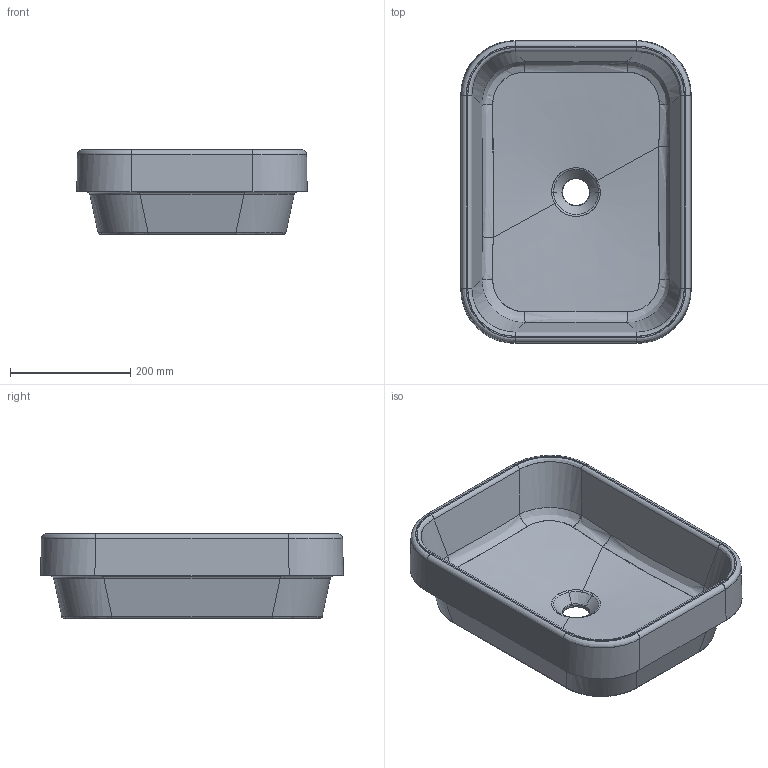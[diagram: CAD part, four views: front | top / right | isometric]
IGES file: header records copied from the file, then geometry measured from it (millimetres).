
Start section: START RECORD GO HERE.
Global section: file name: 50x38 appoggio.igs; native system: IBM CATIA IGES - CATIA Version 5 Release 17 ; preprocessor: CATIA Version 5 Release 17 ; author: Luca; organization: PC-Luca; date: 20120228.212315; units: millimetre
Bounding box: 382.44 x 502.44 x 140 mm (x, y, z)
Surface area: 678887.9 mm2 (no closed solid volume)
Topology: 0 solids, 0 shells, 124 faces, 564 edges, 564 vertices
Faces by surface type: bspline 124
